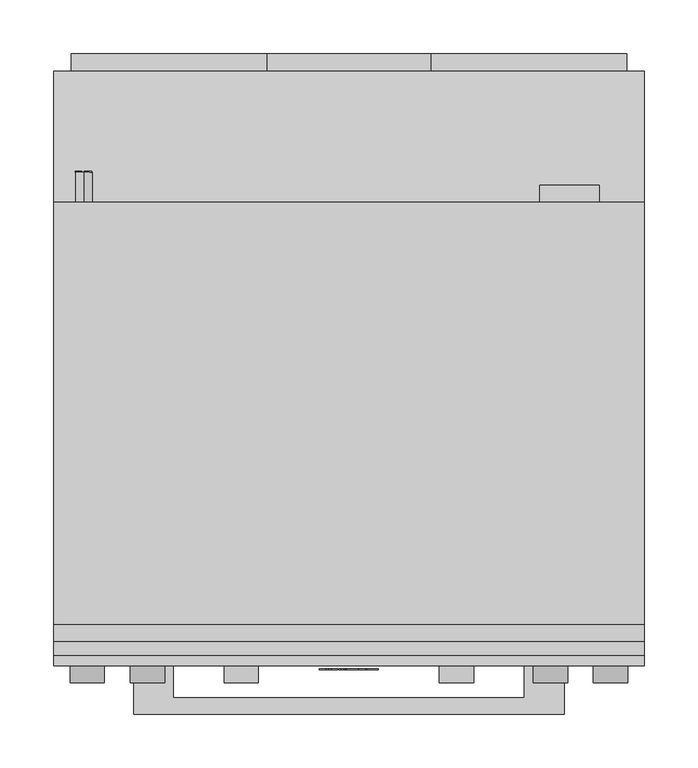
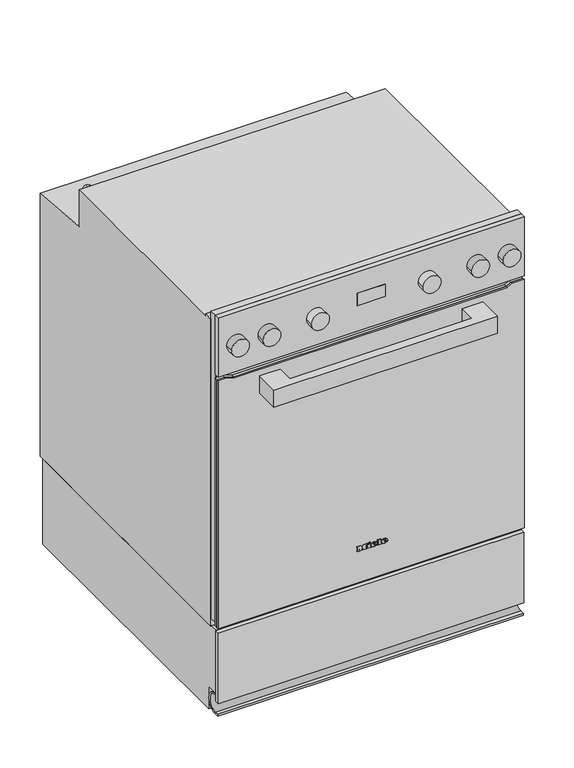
"""IFC4 building model written with IfcOpenShell, lengths in millimetres: proxy geometry, 12395270_CH_H2456-55EP_BRWS : 22245617_CH_12395270_H2456-55EP_BRWS."""

from ifc_helpers import new_model, si_unit, point, frame, frame_2d, origin, place, context, project, spatial, polyline, circle_curve, ellipse_curve, trimmed, segment, composite_curve, outline, extrude, faceted_brep, source, transform, mapped, element, save
from ifc_brep_helpers import plane_surface, cylinder_surface, revolved_surface, extruded_surface, advanced_brep


def specialty_equipment_5bc81cfa(model_context):
    return source(origin(), model_context, "Body", "SolidModel", [
        extrude(outline(polyline([(-273.5, -14.0), (273.5, -14.0), (273.5, -22.0), (-273.5, -22.0), (-273.5, -14.0)])), frame((0.0, 0.0, 28.0), z_axis=(0.0, 0.0, 1.0), x_axis=(1.0, 0.0, 0.0)), (0.0, 0.0, 1.0), 133.5),
        extrude(outline(composite_curve([segment(polyline([(-20.0, 3.3413786), (-20.0, 6.5166751), (-12.6417749, 6.5166751)]), True, "CONTINUOUS"), segment(trimmed(circle_curve(frame_2d((-12.6417749, 23.0333249)), 16.5166498), [point((-12.6417749, 6.5166751))], [point((-11.3579007, 39.5))], True, "CARTESIAN"), True, "CONTINUOUS"), segment(polyline([(-11.3579007, 39.5), (-14.0, 39.5), (-14.0, 42.0), (-12.0, 42.0)]), True, "CONTINUOUS"), segment(trimmed(circle_curve(frame_2d((-12.0, 23.0)), 19.0), [point((-12.0, 42.0))], [point((7.0, 23.0))], False, "CARTESIAN"), True, "CONTINUOUS"), segment(trimmed(circle_curve(frame_2d((-14.9470942, 23.0)), 21.9470942), [point((7.0, 23.0))], [point((3.3965309, 10.9506696))], False, "CARTESIAN"), True, "CONTINUOUS"), segment(trimmed(circle_curve(frame_2d((-12.0, 22.7225846)), 19.381206), [point((3.3965309, 10.9506696))], [point((-12.0, 3.3413786))], False, "CARTESIAN"), True, "CONTINUOUS"), segment(polyline([(-12.0, 3.3413786), (-20.0, 3.3413786)]), True, "CONTINUOUS")], self_intersect=False)), frame((-273.5, 0.0, 0.0), z_axis=(1.0, 0.0, 0.0), x_axis=(0.0, 1.0, 0.0)), (0.0, 0.0, 1.0), 547.0),
        extrude(outline(polyline([(-14.0, 162.0), (522.0, 162.0), (522.0, 0.0), (8.0, 0.0), (8.0, 43.1784801), (-14.0, 43.1784801), (-14.0, 162.0)])), frame((-273.5, 0.0, 0.0), z_axis=(1.0, 0.0, 0.0), x_axis=(0.0, 1.0, 0.0)), (0.0, 0.0, 1.0), 547.0),
        advanced_brep(
        [(21.28, -26.0, 234.133), (21.28, -26.0, 235.042), (27.301, -26.0, 235.042), (16.825, -26.0, 235.042), (19.3, -26.0, 232.0), (27.148, -26.0, 234.133), (24.43, -26.0, 234.133), (22.288, -26.0, 233.125), (21.28, -26.0, 236.194), (21.28, -26.0, 237.175), (22.819, -26.0, 237.175), (22.819, -26.0, 236.194), (21.28, -25.0, 234.133), (22.288, -25.0, 233.125), (24.43, -25.0, 234.133), (27.148, -25.0, 234.133), (19.3, -25.0, 232.0), (16.825, -25.0, 235.042), (27.301, -25.0, 235.042), (21.28, -25.0, 235.042), (21.28, -25.0, 236.194), (22.819, -25.0, 236.194), (22.819, -25.0, 237.175), (21.28, -25.0, 237.175)],
        [
            (0, 1),
            (1, 2),
            (2, 3, ellipse_curve(frame((22.063, -26.0, 235.042), z_axis=(0.0, -1.0, 0.0), x_axis=(-1.0, 0.0, 0.0)), 5.238, 4.329)),
            (3, 4, circle_curve(frame((20.3080491, -26.0, 235.348), z_axis=(0.0, -1.0, 0.0), x_axis=(0.0, 0.0, -1.0)), 3.4964649)),
            (4, 5, circle_curve(frame((21.9581428, -26.0, 237.724), z_axis=(0.0, -1.0, 0.0), x_axis=(0.0, 0.0, -1.0)), 6.3110933)),
            (5, 6),
            (6, 7, circle_curve(frame((22.7279412, -26.0, 234.97), z_axis=(0.0, 1.0, 0.0), x_axis=(0.0, 0.0, -1.0)), 1.896727)),
            (7, 0, circle_curve(frame((22.288, -26.0, 234.133), z_axis=(0.0, 1.0, 0.0), x_axis=(0.0, 0.0, -1.0)), 1.008)),
            (8, 9),
            (9, 10, circle_curve(frame((22.0495, -26.0, 237.175), z_axis=(0.0, 1.0, 0.0), x_axis=(0.0, 0.0, -1.0)), 0.7695)),
            (10, 11),
            (11, 8),
            (12, 13, circle_curve(frame((22.288, -25.0, 234.133), z_axis=(0.0, -1.0, 0.0), x_axis=(0.0, 0.0, -1.0)), 1.008)),
            (13, 14, circle_curve(frame((22.7279412, -25.0, 234.97), z_axis=(0.0, -1.0, 0.0), x_axis=(0.0, 0.0, -1.0)), 1.896727)),
            (14, 15),
            (15, 16, circle_curve(frame((21.9581428, -25.0, 237.724), z_axis=(0.0, 1.0, 0.0), x_axis=(0.0, 0.0, -1.0)), 6.3110933)),
            (16, 17, circle_curve(frame((20.3080491, -25.0, 235.348), z_axis=(0.0, 1.0, 0.0), x_axis=(0.0, 0.0, -1.0)), 3.4964649)),
            (17, 18, ellipse_curve(frame((22.063, -25.0, 235.042), z_axis=(0.0, 1.0, 0.0), x_axis=(-1.0, 0.0, 0.0)), 5.238, 4.329)),
            (18, 19),
            (19, 12),
            (20, 21),
            (21, 22),
            (22, 23, circle_curve(frame((22.0495, -25.0, 237.175), z_axis=(0.0, -1.0, 0.0), x_axis=(0.0, 0.0, -1.0)), 0.7695)),
            (23, 20),
            (0, 12),
            (19, 1),
            (18, 2),
            (5, 15),
            (14, 6),
            (17, 3),
            (13, 7),
            (16, 4),
            (8, 20),
            (23, 9),
            (22, 10),
            (21, 11),
        ],
        [
            plane_surface(frame((21.28, -26.0, 235.042), z_axis=(0.0, -1.0, 0.0), x_axis=(0.0, 0.0, 1.0))),
            plane_surface(frame((21.28, -25.0, 235.042), z_axis=(0.0, 1.0, 0.0), x_axis=(0.0, 0.0, -1.0))),
            plane_surface(frame((21.28, -26.0, 234.133), z_axis=(1.0, 0.0, 0.0), x_axis=(0.0, 1.0, 0.0))),
            plane_surface(frame((21.28, -26.0, 235.042), z_axis=(0.0, 0.0, -1.0), x_axis=(0.0, 1.0, 0.0))),
            plane_surface(frame((27.148, -26.0, 234.133), z_axis=(0.0, 0.0, 1.0), x_axis=(0.0, 1.0, 0.0))),
            extruded_surface(trimmed(ellipse_curve(frame((22.063, -24.0, 235.042), z_axis=(0.0, -1.0, 0.0), x_axis=(-1.0, 0.0, 0.0)), 5.238, 4.329), [point((27.301, -24.0, 235.042))], [point((16.825, -24.0, 235.042))], True, "CARTESIAN"), (0.0, -1.0, 0.0), 1.0),
            revolved_surface(polyline([(22.7279412, -25.0, 233.073273), (22.7279412, -26.0, 233.073273)]), (22.7279412, -25.0, 234.97), (0.0, 1.0, 0.0)),
            revolved_surface(polyline([(22.288, -25.0, 233.125), (22.288, -26.0, 233.125)]), (22.288, -25.0, 234.133), (0.0, 1.0, 0.0)),
            cylinder_surface(frame((20.3080491, -25.0, 235.348), z_axis=(0.0, -1.0, 0.0), x_axis=(0.0, 0.0, -1.0)), 3.4964649),
            cylinder_surface(frame((21.9581428, -25.0, 237.724), z_axis=(0.0, -1.0, 0.0), x_axis=(0.0, 0.0, -1.0)), 6.3110933),
            plane_surface(frame((21.28, -26.0, 236.194), z_axis=(1.0, 0.0, 0.0), x_axis=(0.0, 1.0, 0.0))),
            revolved_surface(polyline([(22.0495, -25.0, 236.40550000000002), (22.0495, -26.0, 236.40550000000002)]), (22.0495, -25.0, 237.175), (0.0, 1.0, 0.0)),
            plane_surface(frame((22.819, -26.0, 237.175), z_axis=(-1.0, 0.0, 0.0), x_axis=(0.0, 1.0, 0.0))),
            plane_surface(frame((22.819, -26.0, 236.194), z_axis=(0.0, 0.0, 1.0), x_axis=(0.0, 1.0, 0.0))),
        ],
        [
            (0, [[1, 2, 3, 4, 5, 6, 7, 8], [9, 10, 11, 12]]),
            (1, [[13, 14, 15, 16, 17, 18, 19, 20], [21, 22, 23, 24]]),
            (2, [[-1, 25, -20, 26]]),
            (3, [[-2, -26, -19, 27]]),
            (4, [[-6, 28, -15, 29]]),
            (5, [[-3, -27, -18, 30]]),
            (6, [[-7, -29, -14, 31]]),
            (7, [[-8, -31, -13, -25]]),
            (8, [[-4, -30, -17, 32]]),
            (9, [[-5, -32, -16, -28]]),
            (10, [[-9, 33, -24, 34]]),
            (11, [[-10, -34, -23, 35]]),
            (12, [[-11, -35, -22, 36]]),
            (13, [[-12, -36, -21, -33]]),
        ],
    ),
        advanced_brep(
        [(2.497, -26.0, 234.133), (2.497, -26.0, 235.042), (8.518, -26.0, 235.042), (-1.958, -26.0, 235.042), (0.517, -26.0, 232.0), (8.365, -26.0, 234.133), (5.647, -26.0, 234.133), (3.505, -26.0, 233.125), (2.497, -26.0, 236.194), (2.497, -26.0, 237.175), (4.036, -26.0, 237.175), (4.036, -26.0, 236.194), (2.497, -25.0, 234.133), (3.505, -25.0, 233.125), (5.647, -25.0, 234.133), (8.365, -25.0, 234.133), (0.517, -25.0, 232.0), (-1.958, -25.0, 235.042), (8.518, -25.0, 235.042), (2.497, -25.0, 235.042), (2.497, -25.0, 236.194), (4.036, -25.0, 236.194), (4.036, -25.0, 237.175), (2.497, -25.0, 237.175)],
        [
            (0, 1),
            (1, 2),
            (2, 3, ellipse_curve(frame((3.28, -26.0, 235.042), z_axis=(0.0, -1.0, 0.0), x_axis=(-1.0, 0.0, 0.0)), 5.238, 4.329)),
            (3, 4, circle_curve(frame((1.5250491, -26.0, 235.348), z_axis=(0.0, -1.0, 0.0), x_axis=(0.0, 0.0, -1.0)), 3.4964649)),
            (4, 5, circle_curve(frame((3.1751428, -26.0, 237.724), z_axis=(0.0, -1.0, 0.0), x_axis=(0.0, 0.0, -1.0)), 6.3110933)),
            (5, 6),
            (6, 7, circle_curve(frame((3.9449412, -26.0, 234.97), z_axis=(0.0, 1.0, 0.0), x_axis=(0.0, 0.0, -1.0)), 1.896727)),
            (7, 0, circle_curve(frame((3.505, -26.0, 234.133), z_axis=(0.0, 1.0, 0.0), x_axis=(0.0, 0.0, -1.0)), 1.008)),
            (8, 9),
            (9, 10, circle_curve(frame((3.2665, -26.0, 237.175), z_axis=(0.0, 1.0, 0.0), x_axis=(0.0, 0.0, -1.0)), 0.7695)),
            (10, 11),
            (11, 8),
            (12, 13, circle_curve(frame((3.505, -25.0, 234.133), z_axis=(0.0, -1.0, 0.0), x_axis=(0.0, 0.0, -1.0)), 1.008)),
            (13, 14, circle_curve(frame((3.9449412, -25.0, 234.97), z_axis=(0.0, -1.0, 0.0), x_axis=(0.0, 0.0, -1.0)), 1.896727)),
            (14, 15),
            (15, 16, circle_curve(frame((3.1751428, -25.0, 237.724), z_axis=(0.0, 1.0, 0.0), x_axis=(0.0, 0.0, -1.0)), 6.3110933)),
            (16, 17, circle_curve(frame((1.5250491, -25.0, 235.348), z_axis=(0.0, 1.0, 0.0), x_axis=(0.0, 0.0, -1.0)), 3.4964649)),
            (17, 18, ellipse_curve(frame((3.28, -25.0, 235.042), z_axis=(0.0, 1.0, 0.0), x_axis=(-1.0, 0.0, 0.0)), 5.238, 4.329)),
            (18, 19),
            (19, 12),
            (20, 21),
            (21, 22),
            (22, 23, circle_curve(frame((3.2665, -25.0, 237.175), z_axis=(0.0, -1.0, 0.0), x_axis=(0.0, 0.0, -1.0)), 0.7695)),
            (23, 20),
            (0, 12),
            (19, 1),
            (18, 2),
            (5, 15),
            (14, 6),
            (17, 3),
            (13, 7),
            (16, 4),
            (8, 20),
            (23, 9),
            (22, 10),
            (21, 11),
        ],
        [
            plane_surface(frame((2.497, -26.0, 235.042), z_axis=(0.0, -1.0, 0.0), x_axis=(0.0, 0.0, 1.0))),
            plane_surface(frame((2.497, -25.0, 235.042), z_axis=(0.0, 1.0, 0.0), x_axis=(0.0, 0.0, -1.0))),
            plane_surface(frame((2.497, -26.0, 234.133), z_axis=(1.0, 0.0, 0.0), x_axis=(0.0, 1.0, 0.0))),
            plane_surface(frame((2.497, -26.0, 235.042), z_axis=(0.0, 0.0, -1.0), x_axis=(0.0, 1.0, 0.0))),
            plane_surface(frame((8.365, -26.0, 234.133), z_axis=(0.0, 0.0, 1.0), x_axis=(0.0, 1.0, 0.0))),
            extruded_surface(trimmed(ellipse_curve(frame((3.28, -24.0, 235.042), z_axis=(0.0, -1.0, 0.0), x_axis=(-1.0, 0.0, 0.0)), 5.238, 4.329), [point((8.518, -24.0, 235.042))], [point((-1.958, -24.0, 235.042))], True, "CARTESIAN"), (0.0, -1.0, 0.0), 1.0),
            revolved_surface(polyline([(3.9449412, -25.0, 233.073273), (3.9449412, -26.0, 233.073273)]), (3.9449412, -25.0, 234.97), (0.0, 1.0, 0.0)),
            revolved_surface(polyline([(3.505, -25.0, 233.125), (3.505, -26.0, 233.125)]), (3.505, -25.0, 234.133), (0.0, 1.0, 0.0)),
            cylinder_surface(frame((1.5250491, -25.0, 235.348), z_axis=(0.0, -1.0, 0.0), x_axis=(0.0, 0.0, -1.0)), 3.4964649),
            cylinder_surface(frame((3.1751428, -25.0, 237.724), z_axis=(0.0, -1.0, 0.0), x_axis=(0.0, 0.0, -1.0)), 6.3110933),
            plane_surface(frame((2.497, -26.0, 236.194), z_axis=(1.0, 0.0, 0.0), x_axis=(0.0, 1.0, 0.0))),
            revolved_surface(polyline([(3.2665, -25.0, 236.40550000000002), (3.2665, -26.0, 236.40550000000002)]), (3.2665, -25.0, 237.175), (0.0, 1.0, 0.0)),
            plane_surface(frame((4.036, -26.0, 237.175), z_axis=(-1.0, 0.0, 0.0), x_axis=(0.0, 1.0, 0.0))),
            plane_surface(frame((4.036, -26.0, 236.194), z_axis=(0.0, 0.0, 1.0), x_axis=(0.0, 1.0, 0.0))),
        ],
        [
            (0, [[1, 2, 3, 4, 5, 6, 7, 8], [9, 10, 11, 12]]),
            (1, [[13, 14, 15, 16, 17, 18, 19, 20], [21, 22, 23, 24]]),
            (2, [[-1, 25, -20, 26]]),
            (3, [[-2, -26, -19, 27]]),
            (4, [[-6, 28, -15, 29]]),
            (5, [[-3, -27, -18, 30]]),
            (6, [[-7, -29, -14, 31]]),
            (7, [[-8, -31, -13, -25]]),
            (8, [[-4, -30, -17, 32]]),
            (9, [[-5, -32, -16, -28]]),
            (10, [[-9, 33, -24, 34]]),
            (11, [[-10, -34, -23, 35]]),
            (12, [[-11, -35, -22, 36]]),
            (13, [[-12, -36, -21, -33]]),
        ],
    ),
        extrude(outline(polyline([(240.469, -7.34), (239.011, -6.656), (240.433, -3.605), (241.891, -4.28), (240.469, -7.34)])), frame((0.0, -26.0, 0.0), z_axis=(0.0, 1.0, 0.0), x_axis=(0.0, 0.0, 1.0)), (0.0, 0.0, 1.0), 1.0),
        extrude(outline(polyline([(238.813, -9.563), (237.202, -9.563), (237.202, -8.492), (233.512, -8.492), (233.512, -9.563), (232.0, -9.563), (232.0, -2.462), (233.512, -2.462), (233.512, -3.506), (238.813, -3.506), (238.813, -9.563)])), frame((0.0, -26.0, 0.0), z_axis=(0.0, 1.0, 0.0), x_axis=(0.0, 0.0, 1.0)), (0.0, 0.0, 1.0), 1.0),
        extrude(outline(polyline([(239.533, 9.022), (239.533, 10.102), (233.512, 10.102), (233.512, 9.022), (232.0, 9.022), (232.0, 16.321), (233.512, 16.321), (233.512, 15.214), (241.0, 15.214), (241.0, 9.022), (239.533, 9.022)])), frame((0.0, -26.0, 0.0), z_axis=(0.0, 1.0, 0.0), x_axis=(0.0, 0.0, 1.0)), (0.0, 0.0, 1.0), 1.0),
        extrude(outline(polyline([(239.533, -27.5), (239.533, -26.411), (233.512, -26.411), (233.512, -27.5), (232.0, -27.5), (232.0, -23.54), (233.512, -23.54), (233.512, -24.62), (237.3341247, -24.62), (232.0, -20.597), (237.4402223, -16.556), (233.512, -16.556), (233.512, -17.663), (232.0, -17.663), (232.0, -10.481), (233.512, -10.481), (233.512, -11.624), (239.533, -11.624), (239.533, -10.481), (241.0, -10.481), (241.0, -15.962), (237.625, -18.59), (241.0, -21.227), (241.0, -27.5), (239.533, -27.5)])), frame((0.0, -26.0, 0.0), z_axis=(0.0, 1.0, 0.0), x_axis=(0.0, 0.0, 1.0)), (0.0, 0.0, 1.0), 1.0),
        extrude(outline(polyline([(-163.0, -22.0), (-163.0, -52.0), (163.0, -52.0), (163.0, -22.0), (200.0, -22.0), (200.0, -67.0), (-200.0, -67.0), (-200.0, -22.0), (-163.0, -22.0)])), frame((0.0, 0.0, 591.1002211), z_axis=(0.0, 0.0, 1.0), x_axis=(1.0, 0.0, 0.0)), (0.0, 0.0, 1.0), 31.8000183),
        extrude(outline(polyline([(639.5, -274.0), (170.0, -274.0), (170.0, 274.0), (639.5, 274.0), (639.5, 252.5209298), (634.5, 244.0), (634.5, -244.0), (639.5, -260.3542631), (639.5, -274.0)])), frame((0.0, -18.0, 0.0), z_axis=(0.0, 1.0, 0.0), x_axis=(0.0, 0.0, 1.0)), (0.0, 0.0, 1.0), 5.0),
        extrude(outline(polyline([(639.5, -274.0), (170.0, -274.0), (170.0, 274.0), (639.5, 274.0), (639.5, 252.5209298), (634.5, 244.0), (634.5, -244.0), (639.5, -260.3542631), (639.5, -274.0)])), frame((0.0, -22.0, 0.0), z_axis=(0.0, 1.0, 0.0), x_axis=(0.0, 0.0, 1.0)), (0.0, 0.0, 1.0), 4.0),
        extrude(outline(polyline([(25.25, -22.0), (-25.25, -22.0), (-25.25, -20.0), (25.25, -20.0), (25.25, -22.0)])), frame((0.0, 0.0, 694.5), z_axis=(0.0, 0.0, 1.0), x_axis=(1.0, 0.0, 0.0)), (0.0, 0.0, 1.0), 23.5),
        faceted_brep([(274.0, -22.0, 758.0), (-274.0, -22.0, 758.0), (-274.0, -22.0, 646.5), (274.0, -22.0, 646.5), (-25.25, -22.0, 718.0), (25.25, -22.0, 718.0), (25.25, -22.0, 694.5), (-25.25, -22.0, 694.5), (274.0, -13.0, 758.0), (274.0, -13.0, 646.5), (-274.0, -13.0, 646.5), (-274.0, -13.0, 758.0), (25.25, -20.0, 718.0), (-25.25, -20.0, 718.0), (-25.25, -20.0, 694.5), (25.25, -20.0, 694.5)], [[[0, 1, 2, 3], [4, 5, 6, 7]], [[8, 9, 10, 11]], [[1, 0, 8, 11]], [[2, 1, 11, 10]], [[3, 2, 10, 9]], [[0, 3, 9, 8]], [[12, 13, 14, 15]], [[13, 12, 5, 4]], [[14, 13, 4, 7]], [[15, 14, 7, 6]], [[12, 15, 6, 5]]]),
        extrude(outline(composite_curve([segment(trimmed(circle_curve(frame_2d((700.5, -100.0)), 16.0), [point((700.5, -116.0))], [point((700.5, -84.0))], False, "CARTESIAN"), True, "CONTINUOUS"), segment(trimmed(circle_curve(frame_2d((700.5, -100.0)), 16.0), [point((700.5, -84.0))], [point((700.5, -116.0))], False, "CARTESIAN"), True, "CONTINUOUS")], self_intersect=False)), frame((0.0, -38.0, 0.0), z_axis=(0.0, 1.0, 0.0), x_axis=(0.0, 0.0, 1.0)), (0.0, 0.0, 1.0), 16.0),
        extrude(outline(composite_curve([segment(trimmed(circle_curve(frame_2d((700.5, 100.0)), 16.0), [point((700.5, 84.0))], [point((700.5, 116.0))], False, "CARTESIAN"), True, "CONTINUOUS"), segment(trimmed(circle_curve(frame_2d((700.5, 100.0)), 16.0), [point((700.5, 116.0))], [point((700.5, 84.0))], False, "CARTESIAN"), True, "CONTINUOUS")], self_intersect=False)), frame((0.0, -38.0, 0.0), z_axis=(0.0, 1.0, 0.0), x_axis=(0.0, 0.0, 1.0)), (0.0, 0.0, 1.0), 16.0),
        extrude(outline(composite_curve([segment(trimmed(circle_curve(frame_2d((700.5, -243.0)), 16.0), [point((700.5, -259.0))], [point((700.5, -227.0))], False, "CARTESIAN"), True, "CONTINUOUS"), segment(trimmed(circle_curve(frame_2d((700.5, -243.0)), 16.0), [point((700.5, -227.0))], [point((700.5, -259.0))], False, "CARTESIAN"), True, "CONTINUOUS")], self_intersect=False)), frame((0.0, -38.0, 0.0), z_axis=(0.0, 1.0, 0.0), x_axis=(0.0, 0.0, 1.0)), (0.0, 0.0, 1.0), 16.0),
        extrude(outline(composite_curve([segment(trimmed(circle_curve(frame_2d((700.5, -187.0)), 16.0), [point((700.5, -203.0))], [point((700.5, -171.0))], False, "CARTESIAN"), True, "CONTINUOUS"), segment(trimmed(circle_curve(frame_2d((700.5, -187.0)), 16.0), [point((700.5, -171.0))], [point((700.5, -203.0))], False, "CARTESIAN"), True, "CONTINUOUS")], self_intersect=False)), frame((0.0, -38.0, 0.0), z_axis=(0.0, 1.0, 0.0), x_axis=(0.0, 0.0, 1.0)), (0.0, 0.0, 1.0), 16.0),
        extrude(outline(composite_curve([segment(trimmed(circle_curve(frame_2d((700.5, 187.0)), 16.0), [point((700.5, 203.0))], [point((700.5, 171.0))], False, "CARTESIAN"), True, "CONTINUOUS"), segment(trimmed(circle_curve(frame_2d((700.5, 187.0)), 16.0), [point((700.5, 171.0))], [point((700.5, 203.0))], False, "CARTESIAN"), True, "CONTINUOUS")], self_intersect=False)), frame((0.0, -38.0, 0.0), z_axis=(0.0, 1.0, 0.0), x_axis=(0.0, 0.0, 1.0)), (0.0, 0.0, 1.0), 16.0),
        extrude(outline(composite_curve([segment(trimmed(circle_curve(frame_2d((700.5, 243.0)), 16.0), [point((700.5, 227.0))], [point((700.5, 259.0))], False, "CARTESIAN"), True, "CONTINUOUS"), segment(trimmed(circle_curve(frame_2d((700.5, 243.0)), 16.0), [point((700.5, 259.0))], [point((700.5, 227.0))], False, "CARTESIAN"), True, "CONTINUOUS")], self_intersect=False)), frame((0.0, -38.0, 0.0), z_axis=(0.0, 1.0, 0.0), x_axis=(0.0, 0.0, 1.0)), (0.0, 0.0, 1.0), 16.0),
        faceted_brep([(274.0, 0.0, 162.0), (274.0, 530.0, 162.0), (274.0, 530.0, 659.4219562), (274.0, 408.0, 670.5494875), (274.0, 408.0, 740.0), (274.0, 16.0, 740.0), (274.0, 16.0, 743.0), (274.0, 0.0, 743.0), (-274.0, 0.0, 162.0), (-274.0, 0.0, 743.0), (-274.0, 16.0, 743.0), (-274.0, 16.0, 740.0), (-274.0, 408.0, 740.0), (-274.0, 408.0, 670.5494875), (-274.0, 530.0, 659.4219562), (-274.0, 530.0, 162.0), (-235.0, 0.0, 590.0), (235.0, 0.0, 590.0), (235.0, 0.0, 204.0), (-235.0, 0.0, 204.0), (235.0, 433.0, 590.0), (-235.0, 433.0, 590.0), (-235.0, 433.0, 204.0), (235.0, 433.0, 204.0)], [[[0, 1, 2, 3, 4, 5, 6, 7]], [[8, 9, 10, 11, 12, 13, 14, 15]], [[1, 0, 8, 15]], [[1, 15, 14, 2]], [[11, 5, 4, 12]], [[0, 7, 9, 8], [16, 17, 18, 19]], [[6, 5, 11, 10]], [[7, 6, 10, 9]], [[13, 3, 2, 14]], [[3, 13, 12, 4]], [[20, 21, 22, 23]], [[21, 20, 17, 16]], [[22, 21, 16, 19]], [[23, 22, 19, 18]], [[20, 23, 18, 17]]]),
        extrude(outline(polyline([(720.0464496, -245.8425503), (718.7915157, -245.8425503), (718.7915157, -239.8786472), (715.8088265, -239.8786472), (715.8088265, -245.5253567), (714.5510117, -245.5253567), (714.5510117, -239.8786472), (711.2605911, -239.8786472), (711.2605911, -245.9946301), (709.9978772, -245.9946301), (709.9978772, -238.6251477), (720.0464496, -238.6251477), (720.0464496, -245.8425503)])), frame((0.0, 436.0, 0.0), z_axis=(0.0, 1.0, 0.0), x_axis=(0.0, 0.0, 1.0)), (0.0, 0.0, 1.0), 1.0),
        extrude(outline(polyline([(720.0498619, -249.1372374), (711.2558696, -249.1372374), (711.2558696, -254.1557124), (710.0011788, -254.1557124), (710.0011788, -247.8766443), (720.0498619, -247.8766443), (720.0498619, -249.1372374)])), frame((0.0, 436.0, 0.0), z_axis=(0.0, 1.0, 0.0), x_axis=(0.0, 0.0, 1.0)), (0.0, 0.0, 1.0), 1.0),
        extrude(outline(composite_curve([segment(trimmed(circle_curve(frame_2d((715.0, -246.0)), 7.5), [point((707.5, -246.0))], [point((722.5, -246.0))], False, "CARTESIAN"), True, "CONTINUOUS"), segment(trimmed(circle_curve(frame_2d((715.0, -246.0)), 7.5), [point((722.5, -246.0))], [point((707.5, -246.0))], False, "CARTESIAN"), True, "CONTINUOUS")], self_intersect=False)), frame((0.0, 406.0, 0.0), z_axis=(0.0, 1.0, 0.0), x_axis=(0.0, 0.0, 1.0)), (0.0, 0.0, 1.0), 30.0),
        extrude(outline(polyline([(499.5, 76.0), (540.5, 76.0), (540.5, -76.0), (499.5, -76.0), (499.5, -258.0), (351.6961275, -258.0), (351.6961275, -76.0), (326.5, -76.0), (326.5, 76.0), (351.6961275, 76.0), (351.6961275, 258.0), (499.5, 258.0), (499.5, 76.0)])), frame((0.0, 530.0, 0.0), z_axis=(0.0, 1.0, 0.0), x_axis=(0.0, 0.0, 1.0)), (0.0, 0.0, 1.0), 16.0),
        extrude(outline(polyline([(232.3464926, 408.0), (177.3464926, 408.0), (177.3464926, 424.0), (232.3464926, 424.0), (232.3464926, 408.0)])), frame((0.0, 0.0, 690.0), z_axis=(0.0, 0.0, 1.0), x_axis=(1.0, 0.0, 0.0)), (0.0, 0.0, 1.0), 26.0),
        extrude(outline(polyline([(177.0, 274.0), (758.0, 274.0), (758.0, -274.0), (177.0, -274.0), (177.0, -272.0), (646.0, -272.0), (646.0, 272.0), (177.0, 272.0), (177.0, 274.0)])), frame((0.0, -13.0, 0.0), z_axis=(0.0, 1.0, 0.0), x_axis=(0.0, 0.0, 1.0)), (0.0, 0.0, 1.0), 13.0),
    ])


if __name__ == "__main__":
    model = new_model("IFC4")
    model_context = context("Model", 3, world=origin())
    ifc_project = project(units=[si_unit("LENGTHUNIT", "METRE", prefix="MILLI")], contexts=[model_context])
    site = spatial("IfcSite", under=ifc_project)
    building = spatial("IfcBuilding", under=site)
    placement = place(None, origin())
    specialty_equipment_shape = specialty_equipment_5bc81cfa(model_context)
    element("IfcBuildingElementProxy", 1, Name="12395270_CH_H2456-55EP_BRWS : 22245617_CH_12395270_H2456-55EP_BRWS", ObjectType="12395270_CH_H2456-55EP_BRWS : 22245617_CH_12395270_H2456-55EP_BRWS", at=placement, inside=building, context=model_context, shape_type="MappedRepresentation", body=[
        mapped(specialty_equipment_shape, transform((0.0, 0.0, 0.0), x_axis=(1.0, 0.0, 0.0), y_axis=(0.0, 1.0, 0.0), z_axis=(0.0, 0.0, 1.0))),
    ])
    save(model, "model.ifc")
